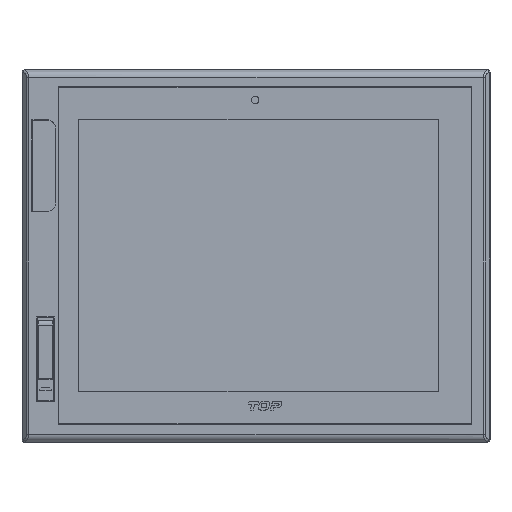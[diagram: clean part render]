
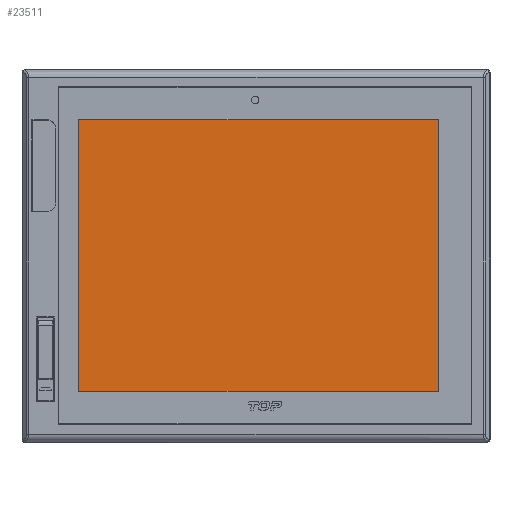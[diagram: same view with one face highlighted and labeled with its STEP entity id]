
A CAD part, top view. The second image highlights one B-rep face of the part: STEP entity #23511.
In plain terms, the highlighted free-form (B-spline) face has degree [1, 1] with [2, 2] control points.
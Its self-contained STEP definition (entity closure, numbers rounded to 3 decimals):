
#3952=DIRECTION('',(0.,-1.,0.));
#3953=VECTOR('',#3952,160.);
#3954=CARTESIAN_POINT('',(-104.,81.5,-0.52));
#3955=LINE('',#3954,#3953);
#3956=DIRECTION('',(-1.,0.,0.));
#3957=VECTOR('',#3956,212.);
#3958=CARTESIAN_POINT('',(108.,81.5,-0.52));
#3959=LINE('',#3958,#3957);
#3960=DIRECTION('',(0.,1.,0.));
#3961=VECTOR('',#3960,160.);
#3962=CARTESIAN_POINT('',(108.,-78.5,-0.52));
#3963=LINE('',#3962,#3961);
#3964=DIRECTION('',(1.,0.,0.));
#3965=VECTOR('',#3964,212.);
#3966=CARTESIAN_POINT('',(-104.,-78.5,-0.52));
#3967=LINE('',#3966,#3965);
#14243=CARTESIAN_POINT('',(-104.,81.5,-0.52));
#14244=CARTESIAN_POINT('',(-104.,-78.5,-0.52));
#14245=VERTEX_POINT('',#14243);
#14246=VERTEX_POINT('',#14244);
#14247=CARTESIAN_POINT('',(108.,-78.5,-0.52));
#14248=VERTEX_POINT('',#14247);
#14249=CARTESIAN_POINT('',(108.,81.5,-0.52));
#14250=VERTEX_POINT('',#14249);
#23496=CARTESIAN_POINT('',(-108.24,-81.979,-0.52));
#23497=CARTESIAN_POINT('',(-108.24,98.933,-0.52));
#23498=CARTESIAN_POINT('',(112.24,-81.979,-0.52));
#23499=CARTESIAN_POINT('',(112.24,98.933,-0.52));
#23500=B_SPLINE_SURFACE_WITH_KNOTS('',1,1,((#23496,#23497),(#23498,#23499)),
.UNSPECIFIED.,.F.,.F.,.F.,(2,2),(2,2),(-108.24,112.24),(-81.979,
98.933),.UNSPECIFIED.);
#23502=ORIENTED_EDGE('',*,*,#23501,.F.);
#23504=ORIENTED_EDGE('',*,*,#23503,.F.);
#23506=ORIENTED_EDGE('',*,*,#23505,.F.);
#23508=ORIENTED_EDGE('',*,*,#23507,.F.);
#23509=EDGE_LOOP('',(#23502,#23504,#23506,#23508));
#23510=FACE_OUTER_BOUND('',#23509,.F.);
#23511=ADVANCED_FACE('',(#23510),#23500,.T.);
#23501=EDGE_CURVE('',#14245,#14246,#3955,.T.);
#23503=EDGE_CURVE('',#14250,#14245,#3959,.T.);
#23505=EDGE_CURVE('',#14248,#14250,#3963,.T.);
#23507=EDGE_CURVE('',#14246,#14248,#3967,.T.);
